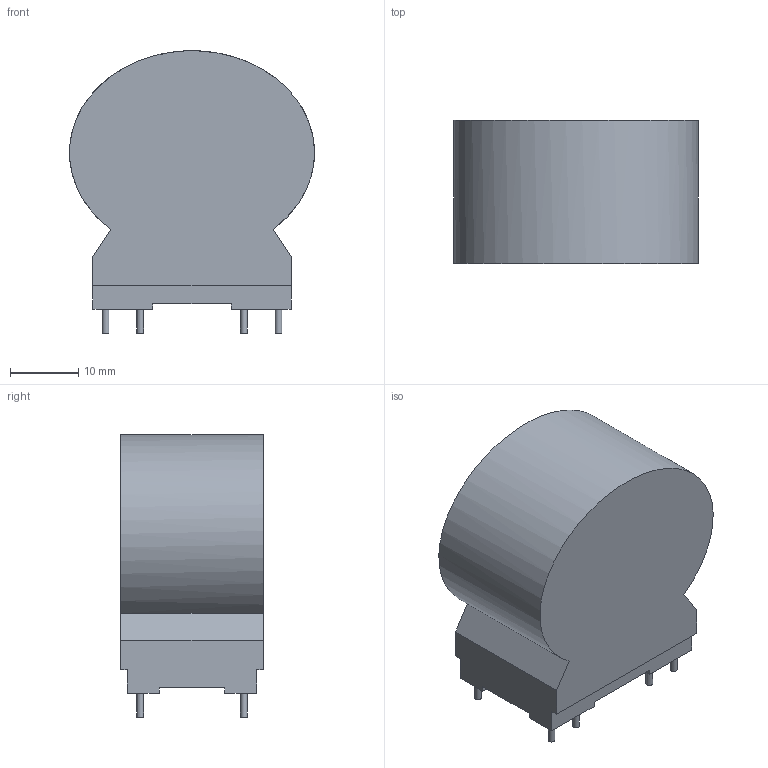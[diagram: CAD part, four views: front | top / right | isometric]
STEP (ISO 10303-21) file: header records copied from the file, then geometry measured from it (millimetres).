
FILE_DESCRIPTION(/* description */ (''),/* implementation_level */ '2;1');
FILE_NAME(/* name */ 'F:\Done\2016\多产品3D模拟\\X2\4FEE653994885F84\X0\\6166-X039\6166-X039 3D Model.stp',/* time_stamp */ '2016-07-11T09:51:00+08:00',/* author */ ('CN000562'),/* organization */ (''),/* preprocessor_version */ 'ST-DEVELOPER v16.5',/* originating_system */ 'Autodesk Inventor 2017',/* authorisation */ '');
FILE_SCHEMA (('AUTOMOTIVE_DESIGN { 1 0 10303 214 3 1 1 }'));
Length unit declared in the file: millimetre
Products named in the file (1): 零件1
Bounding box: 35.99 x 21 x 41.48 mm (x, y, z)
Volume: 22997.5 mm3; surface area: 5105.9 mm2
Topology: 1 solids, 1 shells, 40 faces, 90 edges, 60 vertices
Faces by surface type: plane 31, cylinder 8, bspline 1
Full cylindrical faces by diameter (mm): 1 x8
Entity records: 1115 total; most frequent: CARTESIAN_POINT 200, DIRECTION 180, ORIENTED_EDGE 164, EDGE_CURVE 82, LINE 64, VECTOR 64, VERTEX_POINT 60, AXIS2_PLACEMENT_3D 58
